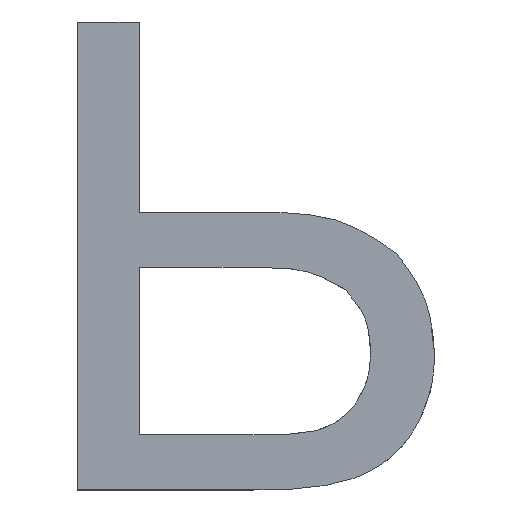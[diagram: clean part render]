
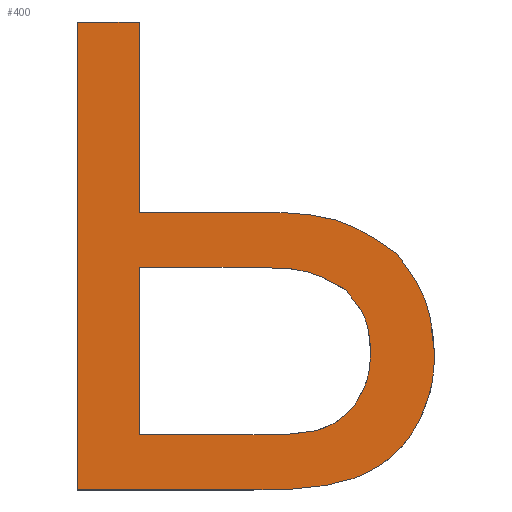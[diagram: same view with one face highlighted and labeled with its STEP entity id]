
A CAD part, top view. The second image highlights one B-rep face of the part: STEP entity #400.
In plain terms, the highlighted planar face has unit normal (0, 0, 1).
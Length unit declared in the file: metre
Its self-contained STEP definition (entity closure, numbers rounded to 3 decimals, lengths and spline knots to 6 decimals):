
#12=B_SPLINE_CURVE_WITH_KNOTS('',3,(#491,#492,#493,#494,#495),
 .UNSPECIFIED.,.F.,.F.,(4,1,4),(0.,0.009012,0.015616),
 .UNSPECIFIED.);
#14=B_SPLINE_CURVE_WITH_KNOTS('',3,(#514,#515,#516,#517,#518),
 .UNSPECIFIED.,.F.,.F.,(4,1,4),(0.,0.00574,0.012119),
 .UNSPECIFIED.);
#16=B_SPLINE_CURVE_WITH_KNOTS('',3,(#537,#538,#539,#540,#541),
 .UNSPECIFIED.,.F.,.F.,(4,1,4),(0.,0.004802,0.009267),
 .UNSPECIFIED.);
#18=B_SPLINE_CURVE_WITH_KNOTS('',3,(#560,#561,#562,#563,#564),
 .UNSPECIFIED.,.F.,.F.,(4,1,4),(0.,0.004266,0.008489),
 .UNSPECIFIED.);
#20=B_SPLINE_CURVE_WITH_KNOTS('',3,(#583,#584,#585,#586,#587),
 .UNSPECIFIED.,.F.,.F.,(4,1,4),(0.,0.003925,0.010128),
 .UNSPECIFIED.);
#22=B_SPLINE_CURVE_WITH_KNOTS('',3,(#630,#631,#632,#633,#634),
 .UNSPECIFIED.,.F.,.F.,(4,1,4),(0.,0.007178,0.012463),
 .UNSPECIFIED.);
#24=B_SPLINE_CURVE_WITH_KNOTS('',3,(#653,#654,#655,#656,#657),
 .UNSPECIFIED.,.F.,.F.,(4,1,4),(0.,0.00572,0.010851),
 .UNSPECIFIED.);
#26=B_SPLINE_CURVE_WITH_KNOTS('',3,(#675,#676,#677,#678,#679),
 .UNSPECIFIED.,.F.,.F.,(4,1,4),(0.,0.004989,0.010336),
 .UNSPECIFIED.);
#28=B_SPLINE_CURVE_WITH_KNOTS('',3,(#698,#699,#700,#701,#702),
 .UNSPECIFIED.,.F.,.F.,(4,1,4),(0.,0.005638,0.011495),
 .UNSPECIFIED.);
#30=B_SPLINE_CURVE_WITH_KNOTS('',3,(#719,#720,#721,#722,#723),
 .UNSPECIFIED.,.F.,.F.,(4,1,4),(0.,0.009762,0.019198),
 .UNSPECIFIED.);
#32=B_SPLINE_CURVE_WITH_KNOTS('',3,(#740,#741,#742,#743,#744),
 .UNSPECIFIED.,.F.,.F.,(4,1,4),(0.,0.010766,0.025534),
 .UNSPECIFIED.);
#140=ORIENTED_EDGE('',*,*,#214,.T.);
#141=ORIENTED_EDGE('',*,*,#183,.T.);
#142=ORIENTED_EDGE('',*,*,#187,.T.);
#143=ORIENTED_EDGE('',*,*,#190,.T.);
#144=ORIENTED_EDGE('',*,*,#193,.T.);
#145=ORIENTED_EDGE('',*,*,#196,.T.);
#146=ORIENTED_EDGE('',*,*,#199,.T.);
#147=ORIENTED_EDGE('',*,*,#202,.T.);
#148=ORIENTED_EDGE('',*,*,#205,.T.);
#149=ORIENTED_EDGE('',*,*,#208,.T.);
#150=ORIENTED_EDGE('',*,*,#211,.T.);
#151=ORIENTED_EDGE('',*,*,#181,.T.);
#152=ORIENTED_EDGE('',*,*,#159,.T.);
#153=ORIENTED_EDGE('',*,*,#163,.T.);
#154=ORIENTED_EDGE('',*,*,#166,.T.);
#155=ORIENTED_EDGE('',*,*,#169,.T.);
#156=ORIENTED_EDGE('',*,*,#172,.T.);
#157=ORIENTED_EDGE('',*,*,#175,.T.);
#158=ORIENTED_EDGE('',*,*,#178,.T.);
#159=EDGE_CURVE('',#216,#217,#254,.F.);
#163=EDGE_CURVE('',#217,#220,#12,.T.);
#166=EDGE_CURVE('',#220,#222,#14,.T.);
#169=EDGE_CURVE('',#222,#224,#16,.T.);
#172=EDGE_CURVE('',#224,#226,#18,.T.);
#175=EDGE_CURVE('',#226,#228,#20,.T.);
#178=EDGE_CURVE('',#228,#230,#263,.T.);
#181=EDGE_CURVE('',#230,#216,#266,.F.);
#183=EDGE_CURVE('',#232,#233,#268,.T.);
#187=EDGE_CURVE('',#233,#236,#272,.F.);
#190=EDGE_CURVE('',#236,#238,#22,.T.);
#193=EDGE_CURVE('',#238,#240,#24,.T.);
#196=EDGE_CURVE('',#240,#242,#26,.T.);
#199=EDGE_CURVE('',#242,#244,#28,.T.);
#202=EDGE_CURVE('',#244,#246,#30,.T.);
#205=EDGE_CURVE('',#246,#248,#32,.T.);
#208=EDGE_CURVE('',#248,#250,#281,.T.);
#211=EDGE_CURVE('',#250,#252,#284,.F.);
#214=EDGE_CURVE('',#252,#232,#287,.T.);
#216=VERTEX_POINT('',#476);
#217=VERTEX_POINT('',#477);
#220=VERTEX_POINT('',#496);
#222=VERTEX_POINT('',#519);
#224=VERTEX_POINT('',#542);
#226=VERTEX_POINT('',#565);
#228=VERTEX_POINT('',#588);
#230=VERTEX_POINT('',#598);
#232=VERTEX_POINT('',#607);
#233=VERTEX_POINT('',#608);
#236=VERTEX_POINT('',#616);
#238=VERTEX_POINT('',#635);
#240=VERTEX_POINT('',#658);
#242=VERTEX_POINT('',#680);
#244=VERTEX_POINT('',#703);
#246=VERTEX_POINT('',#724);
#248=VERTEX_POINT('',#745);
#250=VERTEX_POINT('',#755);
#252=VERTEX_POINT('',#761);
#254=LINE('',#475,#289);
#263=LINE('',#597,#298);
#266=LINE('',#603,#301);
#268=LINE('',#606,#303);
#272=LINE('',#615,#307);
#281=LINE('',#754,#316);
#284=LINE('',#760,#319);
#287=LINE('',#766,#322);
#289=VECTOR('',#420,1.);
#298=VECTOR('',#431,1.);
#301=VECTOR('',#436,1.);
#303=VECTOR('',#440,1.);
#307=VECTOR('',#446,1.);
#316=VECTOR('',#457,1.);
#319=VECTOR('',#462,1.);
#322=VECTOR('',#467,1.);
#345=EDGE_LOOP('',(#140,#141,#142,#143,#144,#145,#146,#147,#148,#149,#150));
#346=EDGE_LOOP('',(#151,#152,#153,#154,#155,#156,#157,#158));
#368=FACE_BOUND('',#345,.T.);
#369=FACE_BOUND('',#346,.T.);
#379=PLANE('',#415);
#400=ADVANCED_FACE('',(#368,#369),#379,.F.);
#415=AXIS2_PLACEMENT_3D('',#769,#471,#472);
#420=DIRECTION('',(-1.,0.,0.));
#431=DIRECTION('',(-1.,0.,0.));
#436=DIRECTION('',(0.,-1.,0.));
#440=DIRECTION('',(0.,-1.,0.));
#446=DIRECTION('',(-1.,0.,0.));
#457=DIRECTION('',(-1.,0.,0.));
#462=DIRECTION('',(0.,-1.,0.));
#467=DIRECTION('',(-1.,0.,0.));
#471=DIRECTION('',(0.,0.,-1.));
#472=DIRECTION('',(0.,-1.,0.));
#475=CARTESIAN_POINT('',(-0.041891,0.00379,-0.03));
#476=CARTESIAN_POINT('',(-0.042477,0.00379,-0.03));
#477=CARTESIAN_POINT('',(-0.042266,0.00379,-0.03));
#491=CARTESIAN_POINT('',(-0.042266,0.00379,-0.03));
#492=CARTESIAN_POINT('',(-0.042235,0.00379,-0.03));
#493=CARTESIAN_POINT('',(-0.042182,0.003789,-0.03));
#494=CARTESIAN_POINT('',(-0.042136,0.003762,-0.03));
#495=CARTESIAN_POINT('',(-0.042117,0.003751,-0.03));
#496=CARTESIAN_POINT('',(-0.042117,0.003751,-0.03));
#514=CARTESIAN_POINT('',(-0.042117,0.003751,-0.03));
#515=CARTESIAN_POINT('',(-0.042104,0.003736,-0.03));
#516=CARTESIAN_POINT('',(-0.042077,0.003705,-0.03));
#517=CARTESIAN_POINT('',(-0.042074,0.003663,-0.03));
#518=CARTESIAN_POINT('',(-0.042073,0.003641,-0.03));
#519=CARTESIAN_POINT('',(-0.042073,0.003641,-0.03));
#537=CARTESIAN_POINT('',(-0.042073,0.003641,-0.03));
#538=CARTESIAN_POINT('',(-0.042074,0.003625,-0.03));
#539=CARTESIAN_POINT('',(-0.042075,0.003594,-0.03));
#540=CARTESIAN_POINT('',(-0.042091,0.003566,-0.03));
#541=CARTESIAN_POINT('',(-0.042099,0.003553,-0.03));
#542=CARTESIAN_POINT('',(-0.042099,0.003553,-0.03));
#560=CARTESIAN_POINT('',(-0.042099,0.003553,-0.03));
#561=CARTESIAN_POINT('',(-0.042108,0.003542,-0.03));
#562=CARTESIAN_POINT('',(-0.042126,0.00352,-0.03));
#563=CARTESIAN_POINT('',(-0.042153,0.00351,-0.03));
#564=CARTESIAN_POINT('',(-0.042167,0.003505,-0.03));
#565=CARTESIAN_POINT('',(-0.042167,0.003505,-0.03));
#583=CARTESIAN_POINT('',(-0.042167,0.003505,-0.03));
#584=CARTESIAN_POINT('',(-0.04218,0.003503,-0.03));
#585=CARTESIAN_POINT('',(-0.042213,0.003498,-0.03));
#586=CARTESIAN_POINT('',(-0.042247,0.003498,-0.03));
#587=CARTESIAN_POINT('',(-0.042268,0.003498,-0.03));
#588=CARTESIAN_POINT('',(-0.042268,0.003498,-0.03));
#597=CARTESIAN_POINT('',(-0.041891,0.003498,-0.03));
#598=CARTESIAN_POINT('',(-0.042477,0.003498,-0.03));
#603=CARTESIAN_POINT('',(-0.042477,0.00381,-0.03));
#606=CARTESIAN_POINT('',(-0.042585,0.00381,-0.03));
#607=CARTESIAN_POINT('',(-0.042585,0.004219,-0.03));
#608=CARTESIAN_POINT('',(-0.042585,0.003402,-0.03));
#615=CARTESIAN_POINT('',(-0.041891,0.003402,-0.03));
#616=CARTESIAN_POINT('',(-0.042277,0.003402,-0.03));
#630=CARTESIAN_POINT('',(-0.042277,0.003402,-0.03));
#631=CARTESIAN_POINT('',(-0.042253,0.003402,-0.03));
#632=CARTESIAN_POINT('',(-0.042211,0.003402,-0.03));
#633=CARTESIAN_POINT('',(-0.04217,0.003407,-0.03));
#634=CARTESIAN_POINT('',(-0.042152,0.003409,-0.03));
#635=CARTESIAN_POINT('',(-0.042152,0.003409,-0.03));
#653=CARTESIAN_POINT('',(-0.042152,0.003409,-0.03));
#654=CARTESIAN_POINT('',(-0.042134,0.003413,-0.03));
#655=CARTESIAN_POINT('',(-0.042098,0.00342,-0.03));
#656=CARTESIAN_POINT('',(-0.042066,0.003439,-0.03));
#657=CARTESIAN_POINT('',(-0.042052,0.003447,-0.03));
#658=CARTESIAN_POINT('',(-0.042052,0.003447,-0.03));
#675=CARTESIAN_POINT('',(-0.042052,0.003447,-0.03));
#676=CARTESIAN_POINT('',(-0.042039,0.003458,-0.03));
#677=CARTESIAN_POINT('',(-0.042012,0.00348,-0.03));
#678=CARTESIAN_POINT('',(-0.041995,0.003511,-0.03));
#679=CARTESIAN_POINT('',(-0.041986,0.003526,-0.03));
#680=CARTESIAN_POINT('',(-0.041986,0.003526,-0.03));
#698=CARTESIAN_POINT('',(-0.041986,0.003526,-0.03));
#699=CARTESIAN_POINT('',(-0.041979,0.003544,-0.03));
#700=CARTESIAN_POINT('',(-0.041964,0.00358,-0.03));
#701=CARTESIAN_POINT('',(-0.041962,0.003618,-0.03));
#702=CARTESIAN_POINT('',(-0.041961,0.003638,-0.03));
#703=CARTESIAN_POINT('',(-0.041961,0.003638,-0.03));
#719=CARTESIAN_POINT('',(-0.041961,0.003638,-0.03));
#720=CARTESIAN_POINT('',(-0.041964,0.003671,-0.03));
#721=CARTESIAN_POINT('',(-0.041969,0.003736,-0.03));
#722=CARTESIAN_POINT('',(-0.042008,0.003789,-0.03));
#723=CARTESIAN_POINT('',(-0.042028,0.003814,-0.03));
#724=CARTESIAN_POINT('',(-0.042028,0.003814,-0.03));
#740=CARTESIAN_POINT('',(-0.042028,0.003814,-0.03));
#741=CARTESIAN_POINT('',(-0.042058,0.003835,-0.03));
#742=CARTESIAN_POINT('',(-0.042129,0.003885,-0.03));
#743=CARTESIAN_POINT('',(-0.042217,0.003886,-0.03));
#744=CARTESIAN_POINT('',(-0.042267,0.003886,-0.03));
#745=CARTESIAN_POINT('',(-0.042267,0.003886,-0.03));
#754=CARTESIAN_POINT('',(-0.041891,0.003886,-0.03));
#755=CARTESIAN_POINT('',(-0.042477,0.003886,-0.03));
#760=CARTESIAN_POINT('',(-0.042477,0.00381,-0.03));
#761=CARTESIAN_POINT('',(-0.042477,0.004219,-0.03));
#766=CARTESIAN_POINT('',(-0.041891,0.004219,-0.03));
#769=CARTESIAN_POINT('',(-0.041891,0.00381,-0.03));
